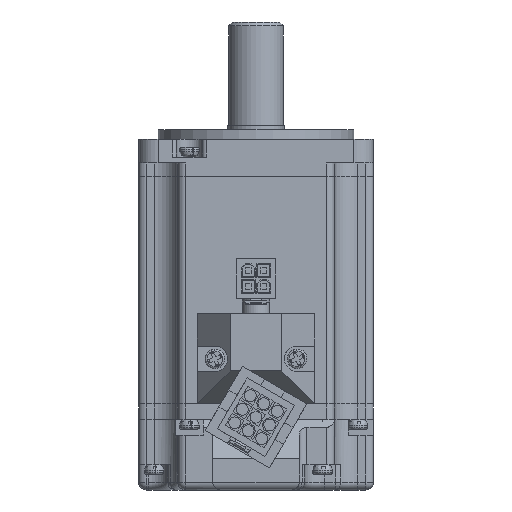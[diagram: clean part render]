
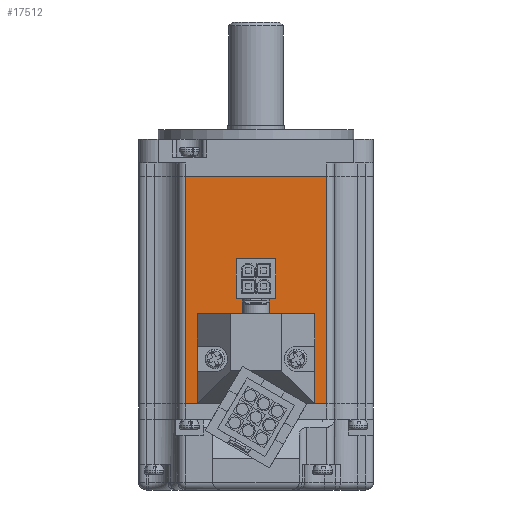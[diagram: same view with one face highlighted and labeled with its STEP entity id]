
A CAD part, front view. The second image highlights one B-rep face of the part: STEP entity #17512.
In plain terms, the highlighted planar face has unit normal (0, -1, 0).
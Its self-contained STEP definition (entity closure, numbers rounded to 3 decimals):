
#1170 = CARTESIAN_POINT ( 'NONE',  ( 18., -30., 0. ) ) ;
#2507 = PLANE ( 'NONE',  #6594 ) ;
#3260 = VECTOR ( 'NONE', #9614, 1000. ) ;
#3861 = EDGE_CURVE ( 'NONE', #20852, #11629, #16605, .T. ) ;
#4052 = DIRECTION ( 'NONE',  ( 0., 0., 1. ) ) ;
#4256 = CARTESIAN_POINT ( 'NONE',  ( -30., -30., -58. ) ) ;
#5064 = ORIENTED_EDGE ( 'NONE', *, *, #16959, .F. ) ;
#5498 = ORIENTED_EDGE ( 'NONE', *, *, #3861, .T. ) ;
#5795 = CARTESIAN_POINT ( 'NONE',  ( 18., -30., -58. ) ) ;
#5997 = DIRECTION ( 'NONE',  ( 0., 0., -1. ) ) ;
#6594 = AXIS2_PLACEMENT_3D ( 'NONE', #4256, #16440, #5997 ) ;
#7344 = VERTEX_POINT ( 'NONE', #1170 ) ;
#7505 = ORIENTED_EDGE ( 'NONE', *, *, #15409, .T. ) ;
#9614 = DIRECTION ( 'NONE',  ( 1., 0., 0. ) ) ;
#10260 = CARTESIAN_POINT ( 'NONE',  ( -18., -30., -58. ) ) ;
#10630 = EDGE_LOOP ( 'NONE', ( #5498, #7505, #5064, #11018 ) ) ;
#10832 = DIRECTION ( 'NONE',  ( 1., 0., 0. ) ) ;
#10970 = CARTESIAN_POINT ( 'NONE',  ( 18., -30., 0. ) ) ;
#11018 = ORIENTED_EDGE ( 'NONE', *, *, #18900, .T. ) ;
#11629 = VERTEX_POINT ( 'NONE', #5795 ) ;
#11687 = LINE ( 'NONE', #21245, #20934 ) ;
#13592 = CARTESIAN_POINT ( 'NONE',  ( -18., -30., -58. ) ) ;
#15041 = VECTOR ( 'NONE', #4052, 1000. ) ;
#15409 = EDGE_CURVE ( 'NONE', #11629, #7344, #19658, .T. ) ;
#16440 = DIRECTION ( 'NONE',  ( 0., -1., 0. ) ) ;
#16605 = LINE ( 'NONE', #20196, #3260 ) ;
#16959 = EDGE_CURVE ( 'NONE', #22009, #7344, #11687, .T. ) ;
#17041 = DIRECTION ( 'NONE',  ( 0., 0., -1. ) ) ;
#17373 = VECTOR ( 'NONE', #17041, 1000. ) ;
#17433 = CARTESIAN_POINT ( 'NONE',  ( -18., -30., 0. ) ) ;
#17512 = ADVANCED_FACE ( 'NONE', ( #17659 ), #2507, .T. ) ;
#17659 = FACE_OUTER_BOUND ( 'NONE', #10630, .T. ) ;
#18900 = EDGE_CURVE ( 'NONE', #22009, #20852, #21956, .T. ) ;
#19658 = LINE ( 'NONE', #10970, #15041 ) ;
#20196 = CARTESIAN_POINT ( 'NONE',  ( -30., -30., -58. ) ) ;
#20852 = VERTEX_POINT ( 'NONE', #10260 ) ;
#20934 = VECTOR ( 'NONE', #10832, 1000. ) ;
#21245 = CARTESIAN_POINT ( 'NONE',  ( -30., -30., 0. ) ) ;
#21956 = LINE ( 'NONE', #13592, #17373 ) ;
#22009 = VERTEX_POINT ( 'NONE', #17433 ) ;
